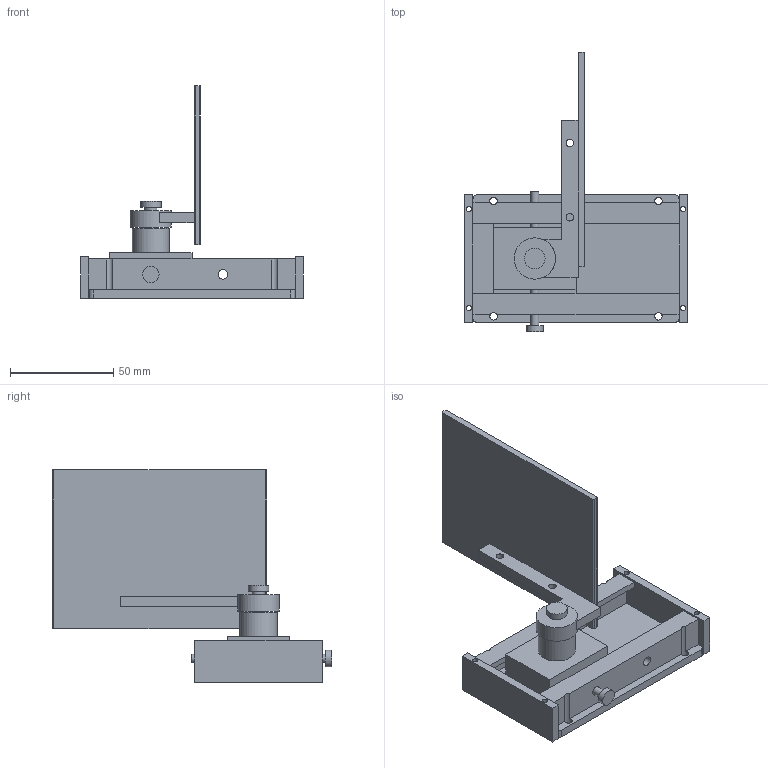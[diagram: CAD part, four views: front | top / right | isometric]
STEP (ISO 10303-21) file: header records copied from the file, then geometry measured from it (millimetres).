
FILE_DESCRIPTION(('Open CASCADE Model'),'2;1');
FILE_NAME('Open CASCADE Shape Model','2026-09-20T04:25:34',('Author'),( 'Open CASCADE'),'Open CASCADE STEP processor 7.9','Open CASCADE 7.9' ,'Unknown');
FILE_SCHEMA(('AUTOMOTIVE_DESIGN { 1 0 10303 214 1 1 1 1 }'));
Length unit declared in the file: millimetre
Products named in the file (9): 5283cf2a-b4ab-11f1-bca5-a68942af9f2b; H01_CAPTURED_SLIDE_BASE; H02_TRANSLATING_CARRIAGE; H03_SWING_LEAF; H04_REAR_END_CAP; H05_FRONT_END_CAP; H06_PIVOT_PIN_REFERENCE; H07_INDEX_PIN_REFERENCE; H08_DUMMY_PANEL
Assembly tree (8 placements, depth 2):
  5283cf2a-b4ab-11f1-bca5-a68942af9f2b
    H01_CAPTURED_SLIDE_BASE
    H02_TRANSLATING_CARRIAGE
    H03_SWING_LEAF
    H04_REAR_END_CAP
    H05_FRONT_END_CAP
    H06_PIVOT_PIN_REFERENCE
    H07_INDEX_PIN_REFERENCE
    H08_DUMMY_PANEL
Bounding box: 108 x 135.5 x 103 mm (x, y, z)
Volume: 108292.8 mm3; surface area: 58636.5 mm2
Topology: 8 solids, 8 shells, 98 faces, 246 edges, 164 vertices
Faces by surface type: plane 67, cylinder 31
Full cylindrical faces by diameter (mm): 2.6 x4, 3.6 x6, 4 x1, 4.6 x5, 6 x1, 6.6 x2, 8 x1, 10 x1, 18 x1, 20 x1
Entity records: 6425 total; most frequent: CARTESIAN_POINT 1073, DIRECTION 1002, LINE 574, VECTOR 574, ORIENTED_EDGE 492, PCURVE 492, DEFINITIONAL_REPRESENTATION 492, EDGE_CURVE 246
